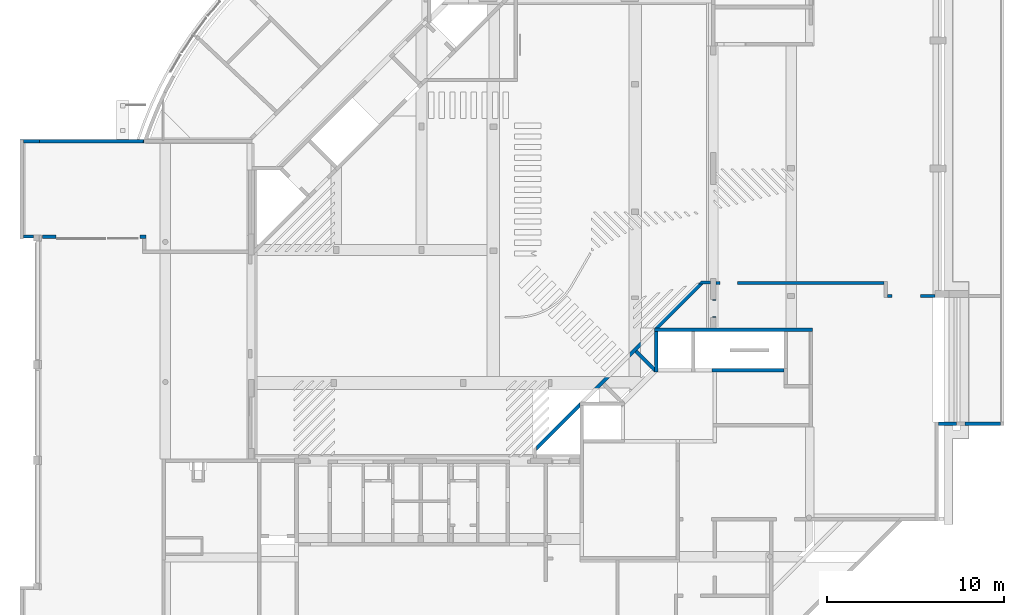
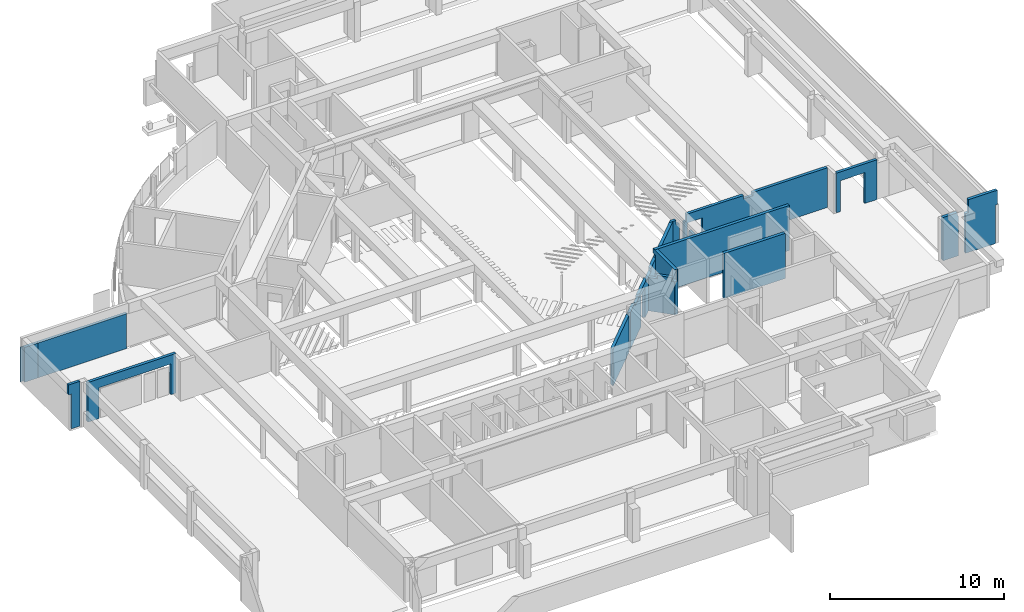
# One storey, part 18 of 22: 15 walls.
"""IFC4X3_ADD2 building model written with IfcOpenShell, lengths in millimetres."""

from ifc_helpers import new_model, si_unit, direction, frame, origin_with_axes, place, context, subcontext, project, spatial, polygons, source, transform, mapped, material, type_object, type_shapes, element, save


model = new_model("IFC4X3_ADD2")

# Units and contexts
model_context = context("Model", 3, precision=1e-05, world=origin_with_axes(), true_north=direction((0.0, 1.0)))
body_context = subcontext(model_context, "Body", "Model", "MODEL_VIEW")
ifc_project = project(units=[si_unit("LENGTHUNIT", "METRE", prefix="MILLI"), si_unit("AREAUNIT", "SQUARE_METRE"), si_unit("VOLUMEUNIT", "CUBIC_METRE"), si_unit("PLANEANGLEUNIT", "RADIAN"), si_unit("TIMEUNIT", "SECOND"), si_unit("MASSUNIT", "GRAM")], contexts=[model_context])

# Site, building, storey
site_placement = place(None, origin_with_axes())
site = spatial("IfcSite", under=ifc_project, at=site_placement, Name="Site", CompositionType="ELEMENT")
building_placement = place(site_placement, origin_with_axes())
building = spatial("IfcBuilding", under=site, at=building_placement, Name="IFC Building Story")
storey_placement = place(building_placement, frame((0.0, 0.0, -3240.0), z_axis=(0.0, 0.0, 1.0), x_axis=(1.0, 0.0, 0.0)))
storey = spatial("IfcBuildingStorey", under=building, at=storey_placement, Name="K10", Elevation=-3240.0)

# Walls
ifc_material = material(Name="BB_Metselwerk_Betonsteen")
wall_type = type_object("IfcWallType", Name="Basic Wall_BB_03.09.24#03_Wand uit metselwerk_ 190 mm", PredefinedType="NOTDEFINED")
shared_shape = source(origin_with_axes(), body_context, "Body", "Tessellation", [
    polygons([(3471.68589025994, -95.0000000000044, 0.0), (3471.68589025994, -95.0000000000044, 2580.0), (-2.16573425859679e-12, -95.0000000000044, 2580.0), (0.0, -95.0000000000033, 0.0), (190.0, 94.9999999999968, 0.0), (3661.68589026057, 94.9999999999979, 0.0), (3661.68589026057, 94.9999999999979, 2580.0), (190.0, 94.9999999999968, 2580.0)], [[[1, 2, 3, 4]], [[4, 5, 6, 1]], [[2, 1, 6, 7]], [[4, 3, 8, 5]], [[2, 7, 8, 3]], [[7, 6, 5, 8]]]),
    polygons([(9594.80911031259, 94.9999999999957, 2580.0), (13080.8455415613, 94.9999999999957, 2580.0), (13080.8455415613, 94.9999999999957, 0.0), (9594.8091103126, 94.9999999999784, 0.0), (9784.80911031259, -95.0000000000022, 2580.0), (13270.8455415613, -95.0000000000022, 2580.0), (9728.91073578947, -39.1016254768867, 2580.0), (9784.80911031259, -95.0000000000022, 0.0), (9728.91073578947, -39.1016254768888, 0.0), (13270.8455415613, -95.0000000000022, 0.0)], [[[1, 2, 3, 4]], [[7, 5, 6]], [[7, 6, 2]], [[2, 1, 7]], [[7, 1, 4]], [[7, 4, 9]], [[9, 8, 5]], [[9, 5, 7]], [[6, 10, 3, 2]], [[9, 4, 3]], [[3, 10, 8]], [[3, 8, 9]], [[5, 8, 10, 6]]]),
    polygons([(4891.63018450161, -95.0000000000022, 2340.0), (4701.63018450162, 94.9999999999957, 2340.0), (4701.63018450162, 94.9999999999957, 2580.0), (4891.63018450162, -95.0000000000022, 2580.0), (5909.86394941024, -95.0000000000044, 2340.0), (5719.86394941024, 95.0, 2340.0), (5909.86394941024, -95.0000000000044, 2510.0), (5719.86394941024, 95.0, 2510.0), (7346.63105116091, -95.0000000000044, 2340.0), (7536.63105116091, 94.9999999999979, 2340.0), (7536.63105116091, 94.9999999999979, 2510.0), (7346.63105116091, -95.0000000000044, 2510.0), (8364.86481606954, -95.0000000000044, 2340.0), (8554.86481606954, 94.9999999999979, 2340.0), (8364.86481606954, -95.0000000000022, 2580.0), (8554.86481606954, 94.9999999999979, 2580.0), (6133.21430677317, -95.0000000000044, 2160.0), (6133.21430677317, -95.0000000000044, 0.0), (6133.21430677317, 94.9999999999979, 0.0), (6133.21430677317, 94.9999999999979, 2160.0), (7123.21430677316, -95.0000000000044, 2160.0), (7123.21430677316, 94.9999999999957, 2160.0), (7123.21430677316, -95.0000000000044, 0.0), (7123.21430677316, 94.9999999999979, 0.0), (9580.16964879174, 94.9999999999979, 0.0), (9390.16964879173, -95.0000000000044, 0.0), (3866.32535178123, -95.0000000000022, 0.0), (3866.32535178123, -95.0000000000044, 2580.0), (3810.42697725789, -39.1016254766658, 2580.0), (3676.32535178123, 94.9999999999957, 2580.0), (3676.32535178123, 94.9999999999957, 0.0), (3810.42697725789, -39.1016254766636, 0.0), (9390.16964879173, -95.0000000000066, 2580.0), (9580.16964879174, 94.9999999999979, 2580.0)], [[[1, 2, 3, 4]], [[2, 1, 5, 6]], [[6, 5, 7, 8]], [[9, 10, 11, 12]], [[10, 9, 13, 14]], [[14, 13, 15, 16]], [[7, 12, 11, 8]], [[17, 18, 19, 20]], [[21, 17, 20, 22]], [[23, 21, 22, 24]], [[23, 24, 25, 26]], [[29, 30, 31]], [[29, 31, 32]], [[32, 27, 28]], [[32, 28, 29]], [[33, 26, 25, 34]], [[16, 15, 33, 34]], [[29, 28, 4]], [[29, 4, 3]], [[3, 30, 29]], [[32, 31, 19]], [[19, 18, 27]], [[19, 27, 32]], [[14, 16, 34]], [[14, 34, 25]], [[25, 24, 22]], [[25, 22, 10]], [[25, 10, 14]], [[22, 20, 6]], [[22, 6, 8]], [[22, 8, 11]], [[22, 11, 10]], [[20, 19, 31]], [[20, 31, 2]], [[20, 2, 6]], [[31, 30, 2]], [[30, 3, 2]], [[1, 4, 28]], [[9, 12, 21]], [[21, 23, 26]], [[21, 26, 13]], [[21, 13, 9]], [[26, 33, 13]], [[33, 15, 13]], [[12, 7, 17]], [[12, 17, 21]], [[1, 28, 27]], [[27, 18, 17]], [[27, 17, 5]], [[27, 5, 1]], [[17, 7, 5]]]),
])
type_shapes(wall_type, [shared_shape])
wall_1_placement = place(storey_placement, frame((-22622.0277793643, 13248.2702696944, 0.0), z_axis=(0.0, 0.0, 1.0), x_axis=(0.7071067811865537, 0.7071067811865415, 0.0)))
element("IfcWall", 1, at=wall_1_placement, inside=storey, type_object=wall_type, material=ifc_material, Name="Basic Wall:BB_03.09.24#03_Wand uit metselwerk, 190 mm", ObjectType="Basic Wall:BB_03.09.24#03_Wand uit metselwerk, 190 mm", PredefinedType="SOLIDWALL", context=body_context, shape_type="MappedRepresentation", body=[
    mapped(shared_shape, transform((0.0, 0.0, 0.0))),
])
wall_2_placement = place(storey_placement, frame((0.0, 0.0, 3240.0), z_axis=(0.0, 0.0, 1.0), x_axis=(1.0, 0.0, 0.0)))
element("IfcWall", 2, at=wall_2_placement, inside=storey, Name="Basic Wall:BB_XX_Wand uit beton, 200 mm", ObjectType="Basic Wall:BB_XX_Wand uit beton, 200 mm", PredefinedType="SOLIDWALL", context=body_context, shape_type="Tessellation", body=[
    polygons([(-12654.99999999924, 17800.0, -80.0), (-8600.0, 17800.0, -80.0), (-8600.0, 17800.0, -3240.0), (-12652.99999999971, 17800.0, -3240.0), (-12652.99999999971, 17800.0, -1180.0), (-12654.99999999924, 17800.0, -1180.0), (-8600.0, 17600.0, -80.0), (-12654.99999999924, 17600.0, -80.0), (-12654.99999999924, 17600.0, -1180.0), (-12652.99999999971, 17600.0, -1180.0), (-12652.99999999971, 17600.0, -3240.0), (-8600.0, 17600.0, -3240.0)], [[[5, 6, 1]], [[5, 1, 2]], [[2, 3, 4]], [[2, 4, 5]], [[10, 11, 12]], [[10, 12, 7]], [[7, 8, 10]], [[8, 9, 10]], [[3, 12, 11, 4]], [[8, 1, 6, 9]], [[2, 1, 8, 7]], [[3, 2, 7, 12]], [[5, 10, 9, 6]], [[10, 5, 4, 11]]]),
])
wall_3_placement = place(storey_placement, frame((0.0, 0.0, 3240.0), z_axis=(0.0, 0.0, 1.0), x_axis=(1.0, 0.0, 0.0)))
element("IfcWall", 3, at=wall_3_placement, inside=storey, Name="Basic Wall:BB_XX_Wand uit beton, 200 mm", ObjectType="Basic Wall:BB_XX_Wand uit beton, 200 mm", PredefinedType="SOLIDWALL", context=body_context, shape_type="Tessellation", body=[
    polygons([(-15715.0, 17600.0, -80.0), (-15715.0, 17600.0, -3240.0), (-15715.0, 19899.99999999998, -3240.0), (-15715.0, 19899.99999999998, -80.0), (-15715.0, 17799.99999999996, -100.0), (-15715.0, 17799.99999999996, -930.0), (-15715.0, 17658.57864376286, -930.0), (-15715.0, 17658.57864376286, -100.0), (-15915.0, 20099.99999999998, -3240.0), (-15915.0, 17868.70057685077, -3240.0), (-15915.0, 17600.0, -3240.0), (-15915.0, 17600.0, -930.0), (-15915.0, 17868.70057685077, -930.0), (-15915.0, 17882.84271247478, -930.0), (-15915.0, 17882.84271247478, -100.0), (-15915.0, 17600.0, -100.0), (-15915.0, 17600.0, -80.0), (-15915.0, 19899.99999999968, -80.0), (-15915.0, 20099.99999999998, -80.0), (-15915.0, 20099.99999999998, -400.0), (-15915.0, 19825.07713892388, -400.0), (-15915.0, 19825.07713892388, -660.0), (-15915.0, 20099.99999999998, -660.0), (-15904.64833748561, 20099.99999999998, -3240.0), (-15904.64833748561, 19899.99999999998, -3240.0), (-15904.64833748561, 20099.99999999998, -660.0), (-15904.64833748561, 19899.99999999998, -80.0), (-15904.64833748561, 20099.99999999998, -80.0), (-15773.57864376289, 17600.0, -100.0), (-15773.57864376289, 17600.0, -930.0), (-15856.42135623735, 17941.42135623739, -100.0), (-15856.42135623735, 17941.42135623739, -930.0), (-15839.91580885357, 19899.99999999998, -660.0), (-15904.64833748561, 19899.99999999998, -660.0), (-15904.64833748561, 20099.99999999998, -400.0), (-15904.64833748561, 19899.99999999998, -400.0), (-15839.91580885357, 19899.99999999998, -400.0)], [[[8, 5, 1]], [[1, 7, 8]], [[7, 1, 2]], [[2, 6, 7]], [[6, 2, 3]], [[6, 3, 4]], [[4, 5, 6]], [[4, 1, 5]], [[10, 11, 12]], [[10, 12, 13]], [[15, 16, 17]], [[18, 19, 20]], [[18, 20, 21]], [[22, 23, 14]], [[14, 21, 22]], [[15, 17, 18]], [[18, 21, 14]], [[18, 14, 15]], [[23, 9, 10]], [[23, 10, 14]], [[10, 13, 14]], [[25, 3, 2]], [[25, 2, 10]], [[10, 9, 25]], [[9, 24, 25]], [[2, 11, 10]], [[9, 23, 26, 24]], [[27, 18, 17]], [[17, 1, 4]], [[17, 4, 27]], [[27, 28, 19]], [[27, 19, 18]], [[30, 12, 11]], [[30, 11, 2]], [[2, 1, 30]], [[1, 29, 30]], [[1, 17, 16]], [[1, 16, 29]], [[31, 32, 6, 5]], [[7, 30, 29, 8]], [[13, 12, 30]], [[13, 30, 7]], [[13, 7, 6]], [[13, 6, 32]], [[32, 14, 13]], [[31, 5, 8]], [[31, 8, 29]], [[31, 29, 16]], [[31, 16, 15]], [[32, 31, 15, 14]], [[34, 26, 23]], [[34, 23, 22]], [[22, 33, 34]], [[36, 37, 21]], [[21, 20, 35]], [[21, 35, 36]], [[22, 21, 37, 33]], [[37, 36, 27]], [[37, 27, 4]], [[4, 33, 37]], [[33, 4, 3]], [[33, 3, 25]], [[25, 34, 33]], [[27, 36, 35, 28]], [[34, 25, 24, 26]], [[20, 19, 28, 35]]]),
])
wall_4_placement = place(storey_placement, frame((0.0, 0.0, 3240.0), z_axis=(0.0, 0.0, 1.0), x_axis=(1.0, 0.0, 0.0)))
element("IfcWall", 4, at=wall_4_placement, inside=storey, Name="Basic Wall:BB_XX_Wand uit beton, 200 mm", ObjectType="Basic Wall:BB_XX_Wand uit beton, 200 mm", PredefinedType="SOLIDWALL", context=body_context, shape_type="Tessellation", body=[
    polygons([(-15904.6483374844, 19900.0, -3240.0), (-15714.99999999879, 19900.0, -3240.0), (-13814.99999999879, 19899.99999999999, -3240.0), (-13614.99999999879, 19899.99999999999, -3240.0), (-8599.999999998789, 19899.99999999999, -3240.0), (-8399.999999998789, 19899.99999999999, -3240.0), (-6999.999999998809, 19900.0, -3240.0), (-6999.999999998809, 19900.0, -80.0), (-8399.999999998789, 19899.99999999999, -80.0), (-8599.999999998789, 19899.99999999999, -80.0), (-13614.99999999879, 19899.99999999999, -80.0), (-13814.99999999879, 19899.99999999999, -80.0), (-15714.99999999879, 19900.0, -80.0), (-15904.6483374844, 19900.0, -80.0), (-15904.6483374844, 19900.0, -400.0), (-15839.91580885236, 19900.0, -400.0), (-15839.91580885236, 19900.0, -660.0), (-15904.6483374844, 19900.0, -660.0), (-6999.999999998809, 20100.0, -3240.0), (-15904.6483374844, 20100.0, -3240.0), (-15904.6483374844, 20100.0, -660.0), (-15639.48515239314, 20100.0, -660.0), (-15639.48515239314, 20100.0, -400.0), (-15904.6483374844, 20100.0, -400.0), (-15904.6483374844, 20100.0, -80.0), (-6999.999999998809, 20100.0, -80.0)], [[[6, 7, 8]], [[6, 8, 9]], [[9, 10, 5]], [[9, 5, 6]], [[10, 11, 4]], [[10, 4, 5]], [[11, 12, 3]], [[11, 3, 4]], [[12, 13, 2]], [[12, 2, 3]], [[17, 18, 1]], [[1, 2, 13]], [[1, 13, 17]], [[13, 16, 17]], [[13, 14, 16]], [[14, 15, 16]], [[23, 24, 25]], [[23, 25, 26]], [[26, 22, 23]], [[26, 19, 20]], [[26, 20, 22]], [[20, 21, 22]], [[2, 1, 20]], [[20, 3, 2]], [[20, 4, 3]], [[4, 20, 19]], [[19, 5, 4]], [[19, 6, 5]], [[19, 7, 6]], [[8, 7, 19, 26]], [[9, 8, 26]], [[26, 10, 9]], [[26, 11, 10]], [[26, 12, 11]], [[26, 25, 12]], [[25, 13, 12]], [[25, 14, 13]], [[20, 1, 18, 21]], [[17, 22, 21, 18]], [[23, 16, 15, 24]], [[22, 17, 16, 23]], [[14, 25, 24, 15]]]),
])
wall_5_placement = place(storey_placement, frame((0.0, 0.0, 3240.0), z_axis=(0.0, 0.0, 1.0), x_axis=(1.0, 0.0, 0.0)))
element("IfcWall", 5, at=wall_5_placement, inside=storey, Name="Basic Wall:BB_XX_Wand uit beton, 190 mm", ObjectType="Basic Wall:BB_XX_Wand uit beton, 190 mm", PredefinedType="SOLIDWALL", context=body_context, shape_type="Tessellation", body=[
    polygons([(-50604.9999999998, 30539.8698058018, -3339.999999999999), (-50604.9999999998, 30539.8698058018, -900.0), (-51505.00000000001, 30539.86980580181, -900.0), (-51505.00000000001, 30539.86980580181, -3339.999999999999), (-50604.9999999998, 30729.8698058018, -3339.999999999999), (-51694.99999999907, 30729.8698058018, -3339.999999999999), (-51695.0, 30729.8698058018, -900.0), (-50604.9999999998, 30729.8698058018, -900.0), (-51505.00000000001, 30694.8698058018, -3339.999999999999), (-51694.99999999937, 30694.8698058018, -3339.999999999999), (-51695.0, 30694.8698058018, -900.0), (-51505.00000000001, 30694.8698058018, -900.0)], [[[1, 2, 3, 4]], [[5, 6, 7, 8]], [[9, 10, 6]], [[9, 6, 5]], [[5, 1, 4]], [[5, 4, 9]], [[2, 1, 5, 8]], [[12, 3, 2]], [[12, 2, 8]], [[8, 7, 12]], [[7, 11, 12]], [[12, 9, 4, 3]], [[9, 12, 11, 10]], [[7, 6, 10, 11]]]),
])
wall_6_placement = place(storey_placement, frame((0.0, 0.0, 3240.0), z_axis=(0.0, 0.0, 1.0), x_axis=(1.0, 0.0, 0.0)))
element("IfcWall", 6, at=wall_6_placement, inside=storey, Name="Basic Wall:BB_XX_Wand uit beton, 170 mm", ObjectType="Basic Wall:BB_XX_Wand uit beton, 170 mm", PredefinedType="SOLIDWALL", context=body_context, shape_type="Tessellation", body=[
    polygons([(-51695.00000000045, 25330.0, -200.0), (-51405.00000000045, 25330.0, -200.0), (-50945.0, 25330.0, -200.0), (-50945.0, 25330.0, -3340.0), (-51505.00000000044, 25330.0, -3340.0), (-51505.00000000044, 25330.0, -900.0), (-51695.00000000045, 25330.0, -900.0), (-50945.0, 25160.0, -200.0), (-51695.00000000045, 25160.0, -200.0), (-51695.00000000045, 25160.0, -900.0), (-51505.00000000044, 25160.0, -900.0), (-51505.00000000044, 25160.0, -3340.0), (-50945.0, 25160.0, -3340.0)], [[[2, 3, 4]], [[2, 4, 5]], [[6, 7, 1]], [[6, 1, 2]], [[2, 5, 6]], [[11, 12, 13]], [[11, 13, 8]], [[8, 9, 11]], [[9, 10, 11]], [[4, 13, 12, 5]], [[9, 1, 7, 10]], [[2, 1, 9]], [[9, 8, 3]], [[9, 3, 2]], [[4, 3, 8, 13]], [[11, 6, 5, 12]], [[6, 11, 10, 7]]]),
])
wall_7_placement = place(storey_placement, frame((0.0, 0.0, 3240.0), z_axis=(0.0, 0.0, 1.0), x_axis=(1.0, 0.0, 0.0)))
element("IfcWall", 7, at=wall_7_placement, inside=storey, Name="Basic Wall:BB_XX_Wand uit beton, 200 mm", ObjectType="Basic Wall:BB_XX_Wand uit beton, 200 mm", PredefinedType="SOLIDWALL", context=body_context, shape_type="Tessellation", body=[
    polygons([(1120.0, 14795.0, -3240.0), (104.99999999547, 14795.0, -3240.0), (104.99999999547, 14795.0, -200.0), (994.999999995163, 14795.0, -200.0), (1075.000000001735, 14795.0, -200.0), (1075.000000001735, 14795.0, -450.0), (1120.0, 14795.0, -450.0), (1120.0, 14795.0, -460.0), (1120.0, 14795.0, -520.0), (1120.0, 14595.0, -3240.0), (1120.0, 14595.0, -450.0), (1074.999999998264, 14595.0, -450.0), (1074.999999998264, 14595.0, -200.0), (104.99999999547, 14595.0, -200.0), (104.99999999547, 14595.0, -3240.0), (1074.999999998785, 14625.00000000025, -200.0), (1120.0, 14625.00000000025, -450.0), (1074.999999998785, 14625.00000000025, -450.0)], [[[8, 9, 6]], [[6, 7, 8]], [[6, 9, 1]], [[1, 4, 6]], [[4, 5, 6]], [[1, 2, 3]], [[1, 3, 4]], [[12, 13, 14]], [[14, 15, 10]], [[14, 10, 12]], [[10, 11, 12]], [[2, 1, 10, 15]], [[4, 3, 14]], [[4, 14, 13]], [[16, 5, 4]], [[4, 13, 16]], [[3, 2, 15, 14]], [[17, 11, 8]], [[8, 7, 17]], [[11, 9, 8]], [[11, 10, 1]], [[11, 1, 9]], [[18, 12, 11]], [[18, 11, 17]], [[17, 7, 6]], [[17, 6, 18]], [[16, 13, 12]], [[16, 12, 18]], [[18, 6, 5]], [[18, 5, 16]]]),
])
wall_8_placement = place(storey_placement, frame((0.0, 0.0, 3240.0), z_axis=(0.0, 0.0, 1.0), x_axis=(1.0, 0.0, 0.0)))
element("IfcWall", 8, at=wall_8_placement, inside=storey, Name="Basic Wall:BB_03.09.24#03_Wand uit metselwerk, 190 mm", ObjectType="Basic Wall:BB_03.09.24#03_Wand uit metselwerk, 190 mm", PredefinedType="SOLIDWALL", context=body_context, shape_type="Tessellation", body=[
    polygons([(-50605.0, 30535.0, -3340.0), (-44710.54744274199, 30535.0, -3340.0), (-44710.54744274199, 30535.0, -3239.999999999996), (-44768.82005186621, 30535.0, -3239.999999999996), (-44768.8200518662, 30535.00000000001, -2589.831175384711), (-44768.82005186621, 30535.0, -2080.0), (-44768.8200518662, 30535.0, -920.0), (-44710.54744274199, 30535.0, -920.0), (-44710.54744274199, 30535.0, -900.0), (-50605.0, 30535.0, -900.0), (-44710.54744274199, 30725.0, -900.0), (-44710.54744274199, 30725.0, -3340.0), (-50605.0, 30725.0, -3340.0), (-50605.0, 30725.0, -900.0), (-44739.86843721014, 30623.28494168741, -920.0), (-44710.54744274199, 30711.44782814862, -920.0), (-44710.54744274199, 30711.44782814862, -1570.16882461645), (-44710.547442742, 30711.44782814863, -2220.33764923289), (-44710.54744274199, 30711.44782814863, -3239.999999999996), (-44739.86843721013, 30623.2849416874, -3239.999999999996), (-44738.67566581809, 30626.89558108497, -1895.2532369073), (-44736.25298475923, 30634.2228947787, -2569.003660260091)], [[[7, 8, 9]], [[7, 9, 10]], [[10, 6, 7]], [[10, 1, 5]], [[10, 5, 6]], [[1, 4, 5]], [[1, 2, 4]], [[2, 3, 4]], [[11, 12, 13, 14]], [[2, 1, 13, 12]], [[8, 7, 15, 16]], [[19, 3, 2]], [[19, 2, 12]], [[12, 18, 19]], [[12, 17, 18]], [[12, 11, 17]], [[11, 16, 17]], [[11, 9, 8]], [[11, 8, 16]], [[10, 9, 11, 14]], [[3, 19, 20, 4]], [[1, 10, 14, 13]], [[5, 4, 20]], [[18, 21, 22]], [[7, 21, 15]], [[21, 6, 22]], [[5, 22, 6]], [[17, 16, 15]], [[15, 21, 17]], [[19, 22, 20]], [[7, 6, 21]], [[17, 21, 18]], [[18, 22, 19]], [[20, 22, 5]]]),
])
wall_9_placement = place(storey_placement, frame((0.0, 0.0, 3240.0), z_axis=(0.0, 0.0, 1.0), x_axis=(1.0, 0.0, 0.0)))
element("IfcWall", 9, at=wall_9_placement, inside=storey, Name="Basic Wall:BB_03.09.24#03_Wand uit metselwerk, 190 mm", ObjectType="Basic Wall:BB_03.09.24#03_Wand uit metselwerk, 190 mm", PredefinedType="SOLIDWALL", context=body_context, shape_type="Tessellation", body=[
    polygons([(-50430.00000000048, 25330.0, -3240.0), (-50430.00000000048, 25330.0, -460.0), (-44585.0, 25330.0, -460.0), (-44585.0, 25330.0, -3240.0), (-44924.99999999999, 25330.0, -3240.0), (-44924.99999999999, 25330.0, -1080.0), (-49674.99999999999, 25330.00000000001, -1080.0), (-49674.99999999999, 25330.0, -3240.0), (-50430.00000000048, 25140.0, -460.0), (-50430.00000000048, 25140.0, -3240.0), (-49674.99999999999, 25140.0, -3240.0), (-49674.99999999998, 25140.00000000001, -1080.0), (-44924.99999999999, 25140.0, -1080.0), (-44924.99999999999, 25140.0, -3240.0), (-44775.0, 25140.0, -3240.0), (-44585.0, 25140.0, -3240.0), (-44585.0, 25140.0, -460.0), (-44775.0, 25140.0, -460.0)], [[[7, 8, 1]], [[7, 1, 2]], [[2, 3, 6]], [[2, 6, 7]], [[3, 4, 5]], [[3, 5, 6]], [[15, 16, 17]], [[15, 17, 13]], [[13, 14, 15]], [[18, 9, 12]], [[18, 12, 13]], [[13, 17, 18]], [[9, 10, 11]], [[9, 11, 12]], [[15, 14, 5]], [[5, 4, 16]], [[5, 16, 15]], [[2, 1, 10, 9]], [[18, 17, 3]], [[3, 2, 9]], [[3, 9, 18]], [[4, 3, 17, 16]], [[6, 13, 12, 7]], [[13, 6, 5, 14]], [[7, 12, 11, 8]], [[10, 1, 8, 11]]]),
])
wall_10_placement = place(storey_placement, frame((0.0, 0.0, 3240.0), z_axis=(0.0, 0.0, 1.0), x_axis=(1.0, 0.0, 0.0)))
element("IfcWall", 10, at=wall_10_placement, inside=storey, Name="Basic Wall:BB_03.09.24#05_Wand uit metselwerk_EI60, 190 mm", ObjectType="Basic Wall:BB_03.09.24#05_Wand uit metselwerk_EI60, 190 mm", PredefinedType="SOLIDWALL", context=body_context, shape_type="Tessellation", body=[
    polygons([(-2959.999999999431, 22540.0, -460.0), (-7899.99999999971, 22540.0, -460.0), (-7899.99999999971, 22540.0, -700.0), (-8499.999999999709, 22540.0, -700.0), (-8499.999999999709, 22540.0, -460.0), (-12275.0, 22540.0, -460.0), (-12275.0, 22540.0, -950.0), (-12450.0, 22540.0, -950.0), (-12450.0, 22540.0, -3240.0), (-12210.0, 22540.0, -3240.0), (-12210.0, 22540.0, -1080.0), (-11220.0, 22540.0, -1080.0), (-11220.0, 22540.0, -3240.0), (-2959.999999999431, 22540.0, -3240.0), (-7899.99999999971, 22730.0, -460.0), (-2959.999999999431, 22730.0, -460.0), (-2959.999999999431, 22730.0, -3240.0), (-11220.0, 22730.0, -3240.0), (-11220.0, 22730.0, -1080.0), (-12210.0, 22730.0, -1080.0), (-12210.0, 22730.0, -3240.0), (-12450.0, 22730.0, -3240.0), (-12450.0, 22730.0, -950.0), (-12275.0, 22730.0, -950.0), (-12275.0, 22730.0, -460.0), (-8499.999999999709, 22730.0, -460.0), (-8499.999999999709, 22730.0, -700.0), (-7899.99999999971, 22730.0, -700.0)], [[[7, 8, 9]], [[7, 9, 10]], [[7, 10, 11]], [[11, 12, 4]], [[11, 4, 5]], [[11, 5, 6]], [[11, 6, 7]], [[12, 13, 3]], [[12, 3, 4]], [[13, 14, 1]], [[13, 1, 3]], [[1, 2, 3]], [[20, 21, 22]], [[20, 22, 23]], [[20, 23, 24]], [[24, 25, 19]], [[24, 19, 20]], [[28, 15, 16]], [[28, 16, 17]], [[28, 17, 18]], [[18, 19, 27]], [[18, 27, 28]], [[19, 25, 26]], [[19, 26, 27]], [[1, 14, 17, 16]], [[9, 22, 21, 10]], [[2, 1, 16, 15]], [[9, 8, 23, 22]], [[3, 2, 15, 28]], [[4, 3, 28, 27]], [[5, 4, 27, 26]], [[6, 5, 26, 25]], [[8, 7, 24, 23]], [[19, 12, 11, 20]], [[20, 11, 10, 21]], [[12, 19, 18, 13]], [[7, 6, 25, 24]], [[17, 14, 13, 18]]]),
])
wall_11_placement = place(storey_placement, frame((0.0, 0.0, 3240.0), z_axis=(0.0, 0.0, 1.0), x_axis=(1.0, 0.0, 0.0)))
element("IfcWall", 11, at=wall_11_placement, inside=storey, Name="Basic Wall:BB_03.09.24#05_Wand uit metselwerk_EI60, 190 mm", ObjectType="Basic Wall:BB_03.09.24#05_Wand uit metselwerk_EI60, 190 mm", PredefinedType="SOLIDWALL", context=body_context, shape_type="Tessellation", body=[
    polygons([(-15914.99999999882, 17880.35190484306, -3240.0), (-16888.84882003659, 18854.20072488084, -3240.0), (-16888.84882003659, 18854.20072488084, -900.0), (-16640.00000000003, 18605.35190484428, -900.0), (-16640.00000000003, 18605.35190484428, -660.0), (-15916.24540381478, 17881.59730865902, -660.0), (-15916.24540381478, 17881.59730865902, -930.0), (-15914.99999999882, 17880.35190484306, -930.0), (-17023.19910846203, 18719.85043645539, -3240.0), (-15914.99999999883, 17611.65132799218, -3240.0), (-15914.99999999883, 17611.65132799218, -930.0), (-16050.59569224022, 17747.24702023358, -930.0), (-16050.59569224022, 17747.24702023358, -660.0), (-16640.00000000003, 18336.65132799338, -660.0), (-16640.00000000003, 18336.65132799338, -900.0), (-17023.19910846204, 18719.8504364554, -900.0)], [[[7, 8, 1]], [[1, 4, 7]], [[4, 5, 6]], [[4, 6, 7]], [[1, 2, 3]], [[1, 3, 4]], [[15, 16, 12]], [[12, 13, 14]], [[12, 14, 15]], [[12, 16, 9]], [[12, 9, 10]], [[10, 11, 12]], [[1, 8, 11, 10]], [[2, 1, 10, 9]], [[2, 9, 16, 3]], [[13, 6, 5, 14]], [[7, 6, 13, 12]], [[8, 7, 12, 11]], [[15, 4, 3, 16]], [[4, 15, 14, 5]]]),
])
wall_12_placement = place(storey_placement, frame((0.0, 0.0, 3240.0), z_axis=(0.0, 0.0, 1.0), x_axis=(1.0, 0.0, 0.0)))
element("IfcWall", 12, at=wall_12_placement, inside=storey, Name="Basic Wall:BB_03.09.24#05_Wand uit metselwerk_EI60, 190 mm", ObjectType="Basic Wall:BB_03.09.24#05_Wand uit metselwerk_EI60, 190 mm", PredefinedType="SOLIDWALL", context=body_context, shape_type="Tessellation", body=[
    polygons([(-12640.0, 20690.0, -3240.0), (-12640.0, 20690.0, -950.0), (-12640.0, 21700.0, -950.0), (-12640.0, 21700.0, -3240.0), (-12640.0, 21640.0, -3240.0), (-12639.99999999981, 21640.0, -1850.0), (-12639.99999999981, 20750.0, -1850.0), (-12640.0, 20750.0, -3240.0), (-12450.0, 20690.0, -950.0), (-12450.0, 20690.0, -3240.0), (-12450.0, 20750.0, -3240.0), (-12450.0, 20750.0, -1850.0), (-12450.0, 21640.0, -1850.0), (-12450.0, 21640.0, -3240.0), (-12450.0, 21700.0, -3240.0), (-12450.0, 21700.0, -950.0)], [[[7, 8, 1]], [[1, 2, 7]], [[2, 3, 6]], [[2, 6, 7]], [[6, 3, 4]], [[4, 5, 6]], [[13, 14, 15]], [[15, 16, 13]], [[16, 9, 12]], [[16, 12, 13]], [[12, 9, 10]], [[10, 11, 12]], [[4, 15, 14, 5]], [[2, 1, 10, 9]], [[3, 2, 9, 16]], [[4, 3, 16, 15]], [[12, 7, 6, 13]], [[13, 6, 5, 14]], [[7, 12, 11, 8]], [[10, 1, 8, 11]]]),
])
wall_13_placement = place(storey_placement, frame((0.0, 0.0, 3240.0), z_axis=(0.0, 0.0, 1.0), x_axis=(1.0, 0.0, 0.0)))
element("IfcWall", 13, at=wall_13_placement, inside=storey, Name="Basic Wall:BB_03.09.24#05_Wand uit metselwerk_EI60, 190 mm", ObjectType="Basic Wall:BB_03.09.24#05_Wand uit metselwerk_EI60, 190 mm", PredefinedType="SOLIDWALL", context=body_context, shape_type="Tessellation", body=[
    polygons([(-95.00000000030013, 21805.0, -3240.0), (-95.00000000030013, 21805.0, -460.0), (-2770.0, 21805.0, -460.0), (-2770.0, 21805.0, -3240.0), (-2519.999999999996, 21805.0, -3240.0), (-2519.999999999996, 21805.0, -1080.0), (-900.0, 21805.0, -1080.0), (-900.0, 21805.0, -3240.0), (-2770.0, 21995.0, -3240.0), (-2770.0, 21995.0, -460.0), (-195.0000000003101, 21995.0, -460.0), (-195.0000000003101, 21995.0, -920.0), (-95.00000000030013, 21995.0, -920.0), (-95.00000000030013, 21995.0, -3240.0), (-900.0, 21995.0, -3240.0), (-900.0, 21995.0, -1080.0), (-2519.999999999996, 21995.0, -1080.0), (-2519.999999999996, 21995.0, -3240.0), (-95.00000000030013, 21975.00000000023, -920.0), (-95.00000000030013, 21975.00000000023, -700.0), (-95.00000000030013, 21975.00000000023, -460.0), (-195.0000000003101, 21975.00000000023, -460.0), (-195.0000000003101, 21975.00000000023, -920.0)], [[[7, 8, 1]], [[7, 1, 2]], [[2, 3, 6]], [[2, 6, 7]], [[3, 4, 5]], [[3, 5, 6]], [[12, 13, 14]], [[17, 18, 9]], [[17, 9, 10]], [[10, 11, 16]], [[10, 16, 17]], [[12, 14, 15]], [[12, 15, 16]], [[16, 11, 12]], [[4, 9, 18, 5]], [[20, 21, 2]], [[2, 19, 20]], [[19, 2, 1]], [[19, 1, 14]], [[14, 13, 19]], [[22, 11, 10]], [[10, 3, 2]], [[10, 2, 22]], [[2, 21, 22]], [[4, 3, 10, 9]], [[6, 17, 16, 7]], [[17, 6, 5, 18]], [[7, 16, 15, 8]], [[20, 19, 23]], [[23, 22, 21]], [[23, 21, 20]], [[23, 19, 13, 12]], [[22, 23, 12, 11]], [[14, 1, 8, 15]]]),
])
wall_14_placement = place(storey_placement, frame((0.0, 0.0, 3240.0), z_axis=(0.0, 0.0, 1.0), x_axis=(1.0, 0.0, 0.0)))
element("IfcWall", 14, at=wall_14_placement, inside=storey, Name="Basic Wall:BB_XX_Wand uit beton, 200 mm", ObjectType="Basic Wall:BB_XX_Wand uit beton, 200 mm", PredefinedType="SOLIDWALL", context=body_context, shape_type="Tessellation", body=[
    polygons([(3600.04020634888, 14795.0, -3240.0), (1600.00000003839, 14795.0, -3240.0), (1600.00000003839, 14795.0, -460.0), (1800.00000003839, 14795.0, -460.0), (1800.00000003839, 14795.0, 450.0), (3700.04020634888, 14795.0, 450.0), (3700.04020634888, 14795.0, -550.0), (3600.04020634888, 14795.0, -550.0), (3600.04020634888, 14795.0, -747.87243127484), (3600.04020634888, 14595.0, -3240.0), (3600.04020634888, 14595.0, -550.0), (3700.04020634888, 14595.0, -550.0), (3700.04020634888, 14595.0, 450.0), (1800.0000000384, 14595.0, 450.0), (1800.00000003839, 14595.0, -460.0), (1600.00000003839, 14595.0, -460.0), (1600.00000003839, 14595.0, -3240.0)], [[[8, 4, 5]], [[8, 5, 6]], [[6, 7, 8]], [[9, 1, 2]], [[9, 2, 4]], [[4, 8, 9]], [[2, 3, 4]], [[11, 12, 13]], [[15, 16, 17]], [[11, 13, 14]], [[11, 14, 15]], [[15, 17, 10]], [[15, 10, 11]], [[2, 1, 10, 17]], [[3, 2, 17, 16]], [[6, 5, 14, 13]], [[4, 3, 16, 15]], [[5, 4, 15, 14]], [[7, 6, 13, 12]], [[7, 12, 11, 8]], [[9, 8, 11]], [[11, 10, 1]], [[11, 1, 9]]]),
])
wall_15_placement = place(storey_placement, frame((0.0, 0.0, 3240.0), z_axis=(0.0, 0.0, 1.0), x_axis=(1.0, 0.0, 0.0)))
element("IfcWall", 15, at=wall_15_placement, inside=storey, Name="Basic Wall:BB_03.09.24#03_Wand uit metselwerk, 190 mm", ObjectType="Basic Wall:BB_03.09.24#03_Wand uit metselwerk, 190 mm", PredefinedType="SOLIDWALL", context=body_context, shape_type="Tessellation", body=[
    polygons([(-12750.0, 22755.0, -3240.0), (-13249.6483374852, 22755.0, -3240.0), (-13249.6483374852, 22755.0, -659.9999999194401), (-12970.00000000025, 22755.0, -659.9999999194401), (-12970.00000000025, 22755.0, -950.0), (-12750.0, 22755.0, -950.0), (-13439.6483374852, 22565.0, -3240.0), (-13170.94776063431, 22565.0, -3240.0), (-12750.0, 22565.0, -3240.0), (-12750.0, 22565.0, -950.0), (-12970.00000000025, 22565.0, -950.0), (-12970.00000000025, 22565.0, -659.9999999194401), (-13170.94776063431, 22565.0, -659.9999999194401), (-13439.6483374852, 22565.0, -659.9999999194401)], [[[5, 6, 1]], [[1, 2, 3]], [[1, 3, 5]], [[3, 4, 5]], [[11, 12, 13]], [[11, 13, 8]], [[8, 9, 10]], [[8, 10, 11]], [[13, 14, 7]], [[13, 7, 8]], [[8, 7, 2]], [[2, 1, 9]], [[2, 9, 8]], [[13, 12, 4]], [[13, 4, 3]], [[3, 14, 13]], [[9, 1, 6, 10]], [[5, 11, 10, 6]], [[11, 5, 4, 12]], [[3, 2, 7, 14]]]),
])

save(model, "model.ifc")
